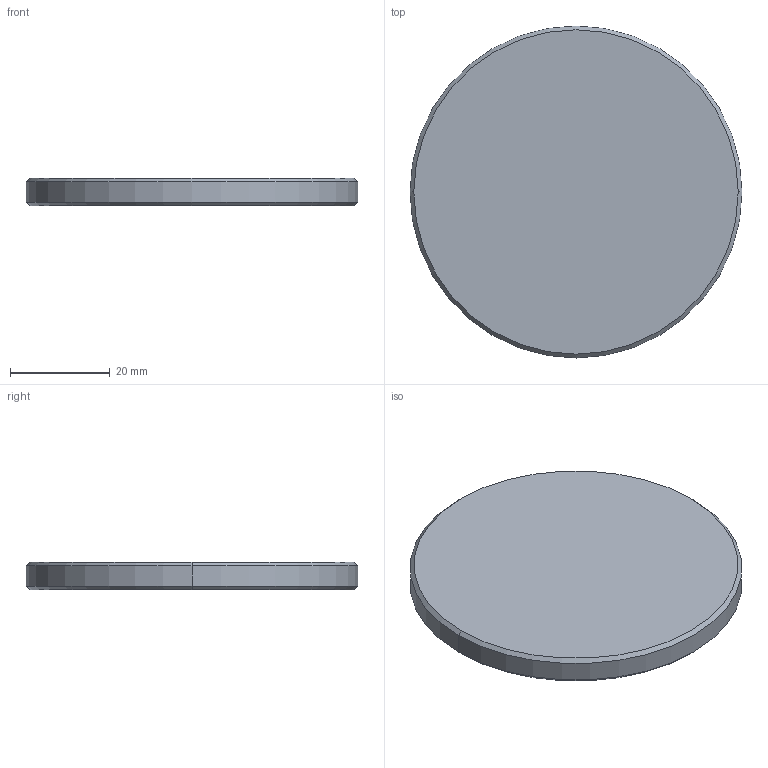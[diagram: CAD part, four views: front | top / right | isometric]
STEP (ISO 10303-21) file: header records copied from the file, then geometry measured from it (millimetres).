
FILE_DESCRIPTION((''),'2;1');
FILE_NAME('MSC-4004','2007-09-27T',('glafferty'),('Pleasant Precision, Inc. (419)675-0556'),'PRO/ENGINEER BY PARAMETRIC TECHNOLOGY CORPORATION, 2006080','PRO/ENGINEER BY PARAMETRIC TECHNOLOGY CORPORATION, 2006080','');
FILE_SCHEMA(('CONFIG_CONTROL_DESIGN'));
Length unit declared in the file: inch
Products named in the file (1): MSC-4004
Bounding box: 66.67 x 66.67 x 5.59 mm (x, y, z)
Volume: 19390 mm3; surface area: 7965 mm2
Topology: 1 solids, 1 shells, 8 faces, 14 edges, 8 vertices
Faces by surface type: cone 4, plane 2, cylinder 2
Entity records: 234 total; most frequent: DIRECTION 38, CARTESIAN_POINT 30, ORIENTED_EDGE 28, AXIS2_PLACEMENT_3D 16, EDGE_CURVE 14, VERTEX_POINT 8, EDGE_LOOP 8, FACE_OUTER_BOUND 8
